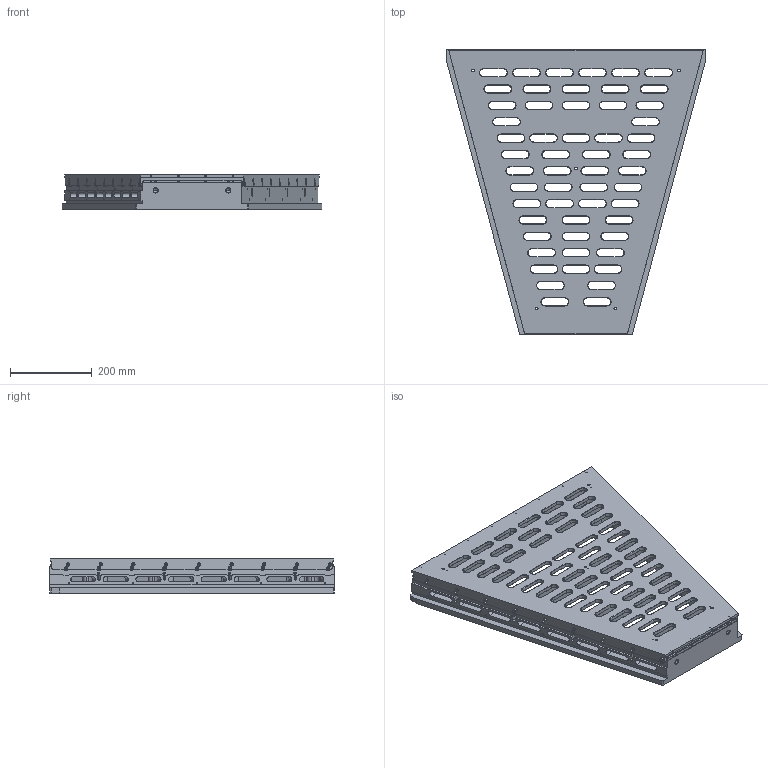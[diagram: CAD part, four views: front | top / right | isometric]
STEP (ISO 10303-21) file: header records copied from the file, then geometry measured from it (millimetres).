
FILE_DESCRIPTION((''),'2;1');
FILE_NAME('24A3685_REV_E','2016-03-24T',('jfarrell'),(''),'PRO/ENGINEER BY PARAMETRIC TECHNOLOGY CORPORATION, 2015360','PRO/ENGINEER BY PARAMETRIC TECHNOLOGY CORPORATION, 2015360','');
FILE_SCHEMA(('CONFIG_CONTROL_DESIGN'));
Products named in the file (1): 24A3685_REV_E
Bounding box: 635 x 695.27 x 83.82 mm (x, y, z)
Volume: 8093160 mm3; surface area: 1299024.3 mm2
Topology: 1 solids, 154 shells, 2618 faces, 6555 edges, 3926 vertices
Faces by surface type: cylinder 998, cone 852, plane 728, torus 39, bspline 1
Entity records: 77079 total; most frequent: DIRECTION 14229, CARTESIAN_POINT 13980, ORIENTED_EDGE 11850, EDGE_CURVE 6231, AXIS2_PLACEMENT_3D 5482, VERTEX_POINT 3926, VECTOR 3265, LINE 3265
